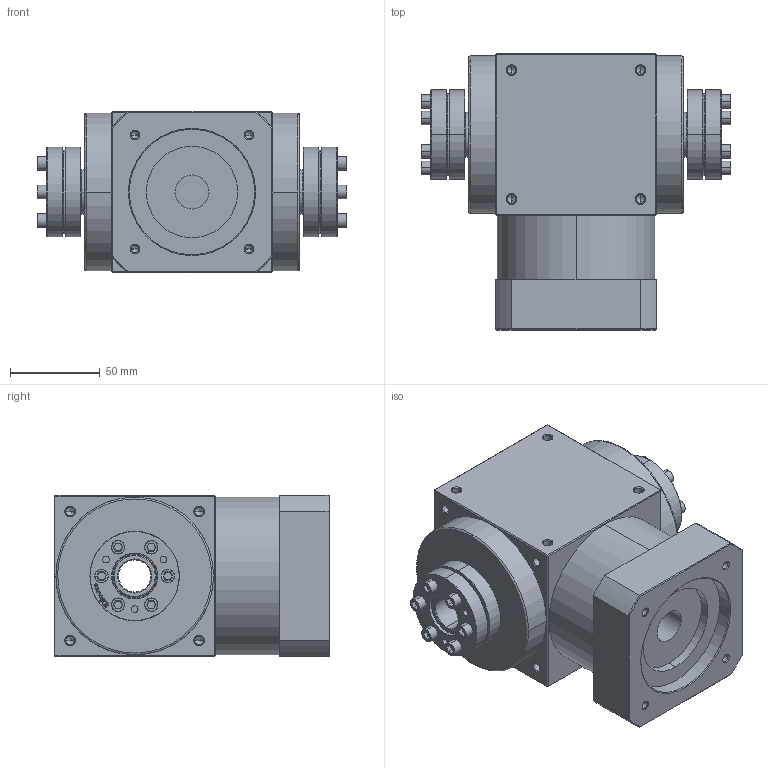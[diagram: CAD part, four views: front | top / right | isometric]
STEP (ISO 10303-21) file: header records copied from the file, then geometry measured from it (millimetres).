
FILE_DESCRIPTION (( 'STEP AP214' ), '1' );
FILE_NAME ('AT090-FC-001--19-70-90-M5.STEP', '2020-10-08T09:53:26', ( '微软用户' ), ( '微软中国' ), 'SwSTEP 2.0', 'SolidWorks 2014', '' );
FILE_SCHEMA (( 'AUTOMOTIVE_DESIGN' ));
Length unit declared in the file: millimetre
Products named in the file (6): 83_24x50; AT090-FC-001--19-70-90-M5
Assembly tree (3 placements, depth 2):
  83_24x50
  AT090-FC-001--19-70-90-M5
  AT090-FC-001--19-70-90-M5
    AT090-FC-001--19-70-90-M5
    83_24x50  x2
  83_24x50
Bounding box: 173 x 154 x 90 mm (x, y, z)
Volume: 1326773.6 mm3; surface area: 133844.8 mm2
Topology: 21 solids, 21 shells, 1053 faces, 2444 edges, 1436 vertices
Faces by surface type: cylinder 448, plane 263, cone 250, torus 80, bspline 12
Entity records: 19242 total; most frequent: CARTESIAN_POINT 4149, DIRECTION 3224, ORIENTED_EDGE 3044, EDGE_CURVE 1522, AXIS2_PLACEMENT_3D 1247, VERTEX_POINT 910, EDGE_LOOP 758, VECTOR 730
